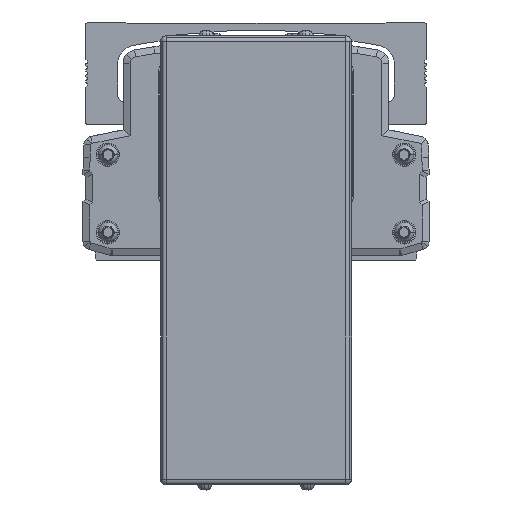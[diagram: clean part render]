
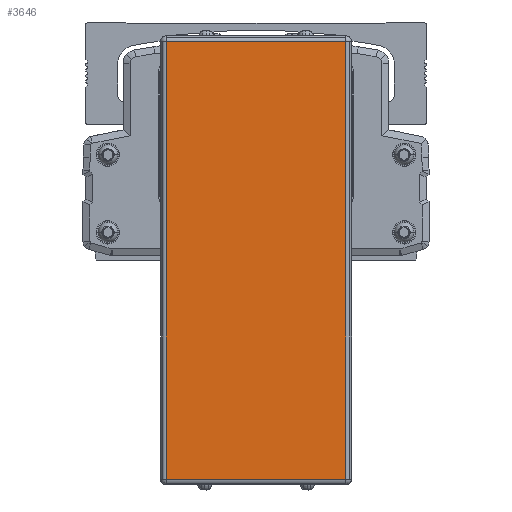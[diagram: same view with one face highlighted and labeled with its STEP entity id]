
A CAD part, front view. The second image highlights one B-rep face of the part: STEP entity #3646.
In plain terms, the highlighted planar face has unit normal (0, -1, 0).
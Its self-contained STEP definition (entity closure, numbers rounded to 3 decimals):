
#3646=ADVANCED_FACE('',(#8641),#8642,.T.);
#8641=FACE_OUTER_BOUND('',#15757,.T.);
#8642=PLANE('',#15758);
#15757=EDGE_LOOP('',(#26763,#26764,#26765,#26766));
#15758=AXIS2_PLACEMENT_3D('',#26767,#26768,#26769);
#26763=ORIENTED_EDGE('',*,*,#43751,.F.);
#26764=ORIENTED_EDGE('',*,*,#43752,.F.);
#26765=ORIENTED_EDGE('',*,*,#43753,.F.);
#26766=ORIENTED_EDGE('',*,*,#40849,.F.);
#26767=CARTESIAN_POINT('',(-299.996,-163.778,-49.1));
#26768=DIRECTION('',(0.,-1.0,0.));
#26769=DIRECTION('',(1.0,0.,0.));
#40849=EDGE_CURVE('',#48571,#48573,#48574,.T.);
#43751=EDGE_CURVE('',#53427,#48571,#53428,.T.);
#43752=EDGE_CURVE('',#49147,#53427,#53429,.T.);
#43753=EDGE_CURVE('',#48573,#49147,#53430,.T.);
#48571=VERTEX_POINT('',#59806);
#48573=VERTEX_POINT('',#59808);
#48574=LINE('',#59809,#59810);
#49147=VERTEX_POINT('',#60593);
#53427=VERTEX_POINT('',#66727);
#53428=LINE('',#66728,#66729);
#53429=LINE('',#66730,#66731);
#53430=LINE('',#66732,#66733);
#59806=CARTESIAN_POINT('',(-267.496,-163.778,-128.2));
#59808=CARTESIAN_POINT('',(-332.496,-163.778,-128.2));
#59809=CARTESIAN_POINT('',(-299.996,-163.778,-128.2));
#59810=VECTOR('',#75780,10.0);
#60593=CARTESIAN_POINT('',(-332.496,-163.778,30.));
#66727=CARTESIAN_POINT('',(-267.496,-163.778,30.));
#66728=CARTESIAN_POINT('',(-267.496,-163.778,-49.1));
#66729=VECTOR('',#79351,10.0);
#66730=CARTESIAN_POINT('',(-299.996,-163.778,30.));
#66731=VECTOR('',#79352,10.0);
#66732=CARTESIAN_POINT('',(-332.496,-163.778,-49.1));
#66733=VECTOR('',#79353,10.0);
#75780=DIRECTION('',(-1.0,0.,0.));
#79351=DIRECTION('',(0.0,0.,-1.0));
#79352=DIRECTION('',(1.0,0.,0.));
#79353=DIRECTION('',(0.0,0.,1.0));
